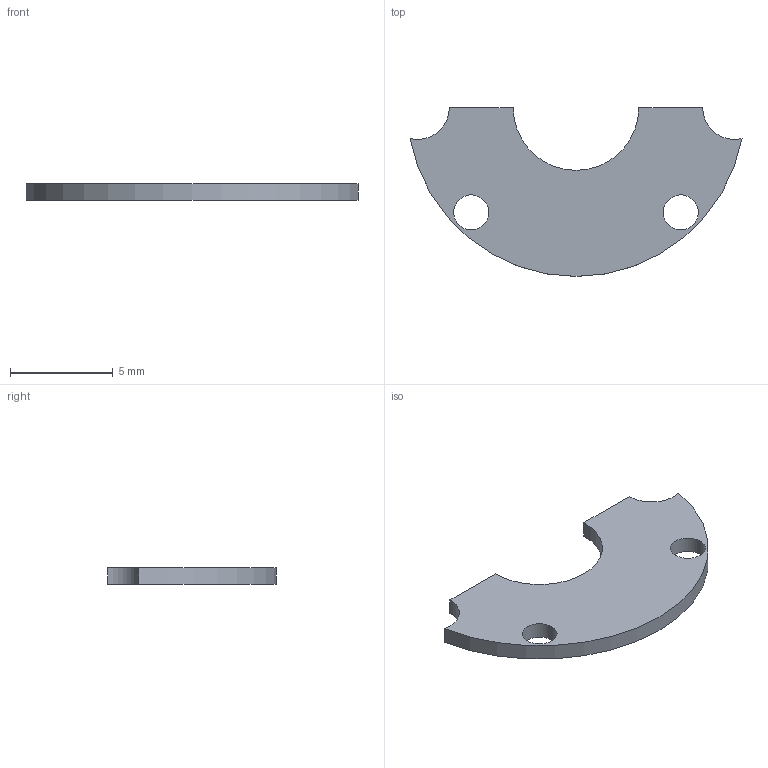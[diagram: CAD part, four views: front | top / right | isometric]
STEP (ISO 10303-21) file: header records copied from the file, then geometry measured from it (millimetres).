
FILE_DESCRIPTION(('Open CASCADE Model'),'2;1');
FILE_NAME('Open CASCADE Shape Model','2026-09-24T19:52:58',('Author'),( 'Open CASCADE'),'Open CASCADE STEP processor 7.8','Open CASCADE 7.8' ,'Unknown');
FILE_SCHEMA(('AUTOMOTIVE_DESIGN { 1 0 10303 214 1 1 1 1 }'));
Length unit declared in the file: millimetre
Products named in the file (1): Open CASCADE STEP translator 7.8 20
Bounding box: 16.12 x 8.2 x 0.8 mm (x, y, z)
Volume: 65 mm3; surface area: 206.4 mm2
Topology: 1 solids, 1 shells, 10 faces, 24 edges, 16 vertices
Faces by surface type: cylinder 6, plane 4
Full cylindrical faces by diameter (mm): 1.7 x2
Entity records: 614 total; most frequent: CARTESIAN_POINT 115, DIRECTION 90, ORIENTED_EDGE 48, PCURVE 48, DEFINITIONAL_REPRESENTATION 48, LINE 32, VECTOR 32, EDGE_CURVE 24
